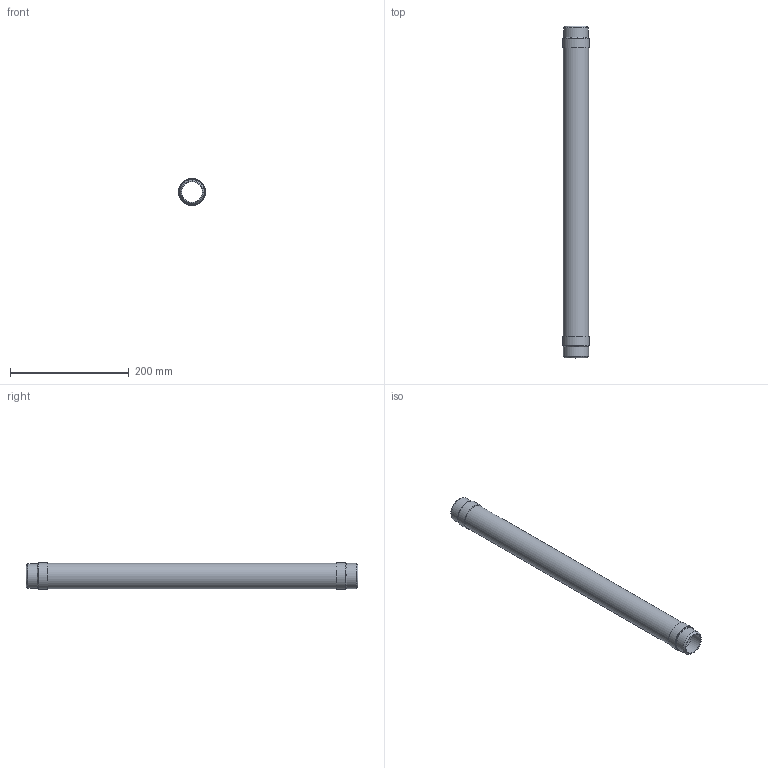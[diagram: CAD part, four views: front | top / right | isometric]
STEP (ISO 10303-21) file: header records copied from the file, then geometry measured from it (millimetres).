
FILE_DESCRIPTION(/* description */ (''),/* implementation_level */ '2;1');
FILE_NAME(/* name */ 'C:\001_Work\Designs\CSAWN\CSAWN-1.25x22.stp',/* time_stamp */ '2016-06-04T16:55:24-04:00',/* author */ ('rramoutar'),/* organization */ ('Mason Industries Inc.'),/* preprocessor_version */ 'ST-DEVELOPER v15.6',/* originating_system */ 'Autodesk Inventor 2015',/* authorisation */ '');
FILE_SCHEMA (('CONFIG_CONTROL_DESIGN'));
Length unit declared in the file: inch
Products named in the file (1): CSAWN-1.25x22
Bounding box: 45.14 x 558.8 x 45.14 mm (x, y, z)
Volume: 43388.7 mm3; surface area: 159488.6 mm2
Topology: 5 solids, 5 shells, 24 faces, 40 edges, 26 vertices
Faces by surface type: cylinder 10, plane 10, cone 4
Full cylindrical faces by diameter (mm): 35.052 x2, 42.164 x3, 42.774 x3, 45.155 x2
Entity records: 564 total; most frequent: DIRECTION 98, CARTESIAN_POINT 73, AXIS2_PLACEMENT_3D 49, EDGE_LOOP 48, ORIENTED_EDGE 48, STYLED_ITEM 29, FACE_BOUND 24, FACE_OUTER_BOUND 24
